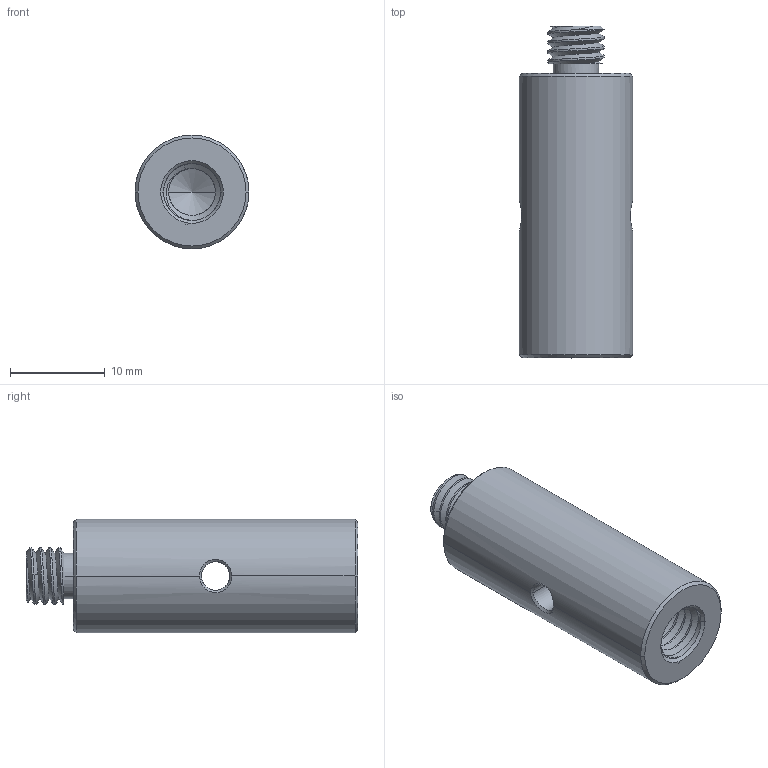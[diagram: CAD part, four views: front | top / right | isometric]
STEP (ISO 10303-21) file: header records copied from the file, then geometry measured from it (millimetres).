
FILE_DESCRIPTION((''),'2;1');
FILE_NAME('PCA3-A','2021-01-06T',('Administrator'),(''),'CREO PARAMETRIC BY PTC INC, 2015290','CREO PARAMETRIC BY PTC INC, 2015290','');
FILE_SCHEMA(('CONFIG_CONTROL_DESIGN'));
Length unit declared in the file: millimetre
Products named in the file (1): PCA3-A
Bounding box: 12 x 35.01 x 12 mm (x, y, z)
Volume: 3116.5 mm3; surface area: 1870.4 mm2
Topology: 1 solids, 1 shells, 71 faces, 182 edges, 112 vertices
Faces by surface type: cylinder 35, bspline 20, cone 9, plane 7
Entity records: 5295 total; most frequent: CARTESIAN_POINT 3772, ORIENTED_EDGE 360, DIRECTION 214, EDGE_CURVE 180, VERTEX_POINT 112, B_SPLINE_CURVE_WITH_KNOTS 90, EDGE_LOOP 74, AXIS2_PLACEMENT_3D 73
